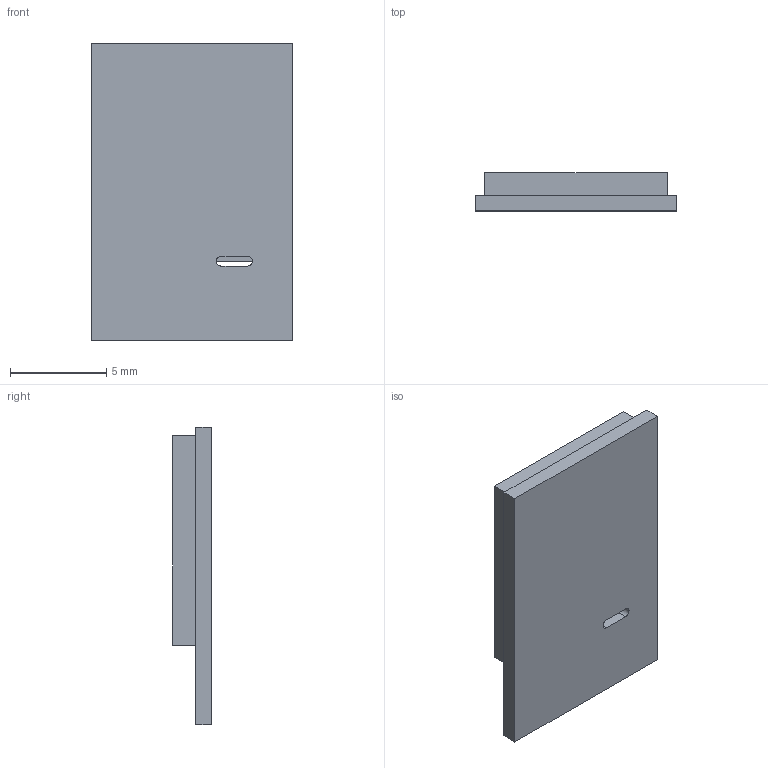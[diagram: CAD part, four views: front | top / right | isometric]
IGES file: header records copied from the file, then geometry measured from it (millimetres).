
Start section:  PTC IGES file: mdbt50q-p.igs
Global section: file name: mdbt50q-p.igs; native system: Creo Parametric by Parametric Technology Corporation; preprocessor: 2012230; author: Jack; organization: Unknown; date: 20180617.220145; units: millimetre
Bounding box: 10.5 x 2 x 15.5 mm (x, y, z)
Surface area: 418.7 mm2 (no closed solid volume)
Topology: 0 solids, 0 shells, 16 faces, 80 edges, 80 vertices
Faces by surface type: bspline 14, revolution 2
